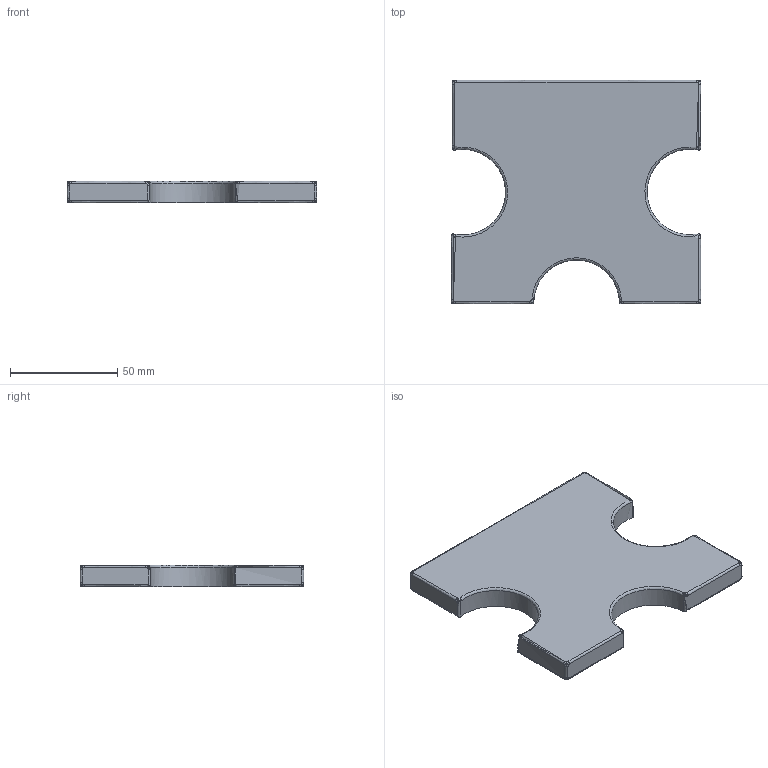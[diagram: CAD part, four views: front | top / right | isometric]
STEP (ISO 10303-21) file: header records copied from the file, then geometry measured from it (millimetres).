
FILE_DESCRIPTION(/* description */ (''),/* implementation_level */ '2;1');
FILE_NAME(/* name */ 'puzzle_test.step',/* time_stamp */ '2024-02-06T19:57:07-03:00',/* author */ (''),/* organization */ (''),/* preprocessor_version */ 'ST-DEVELOPER v20',/* originating_system */ 'Autodesk Translation Framework v12.20.1.177',/* authorisation */ '');
FILE_SCHEMA (('AUTOMOTIVE_DESIGN { 1 0 10303 214 3 1 1 }'));
Length unit declared in the file: millimetre
Products named in the file (1): testing
Bounding box: 116.56 x 104.55 x 10 mm (x, y, z)
Surface area: 24541.3 mm2 (no closed solid volume)
Topology: 0 solids, 1 shells, 117 faces, 288 edges, 156 vertices
Faces by surface type: bspline 105, plane 9, cylinder 3
Entity records: 10615 total; most frequent: CARTESIAN_POINT 8798, ORIENTED_EDGE 542, EDGE_CURVE 271, B_SPLINE_CURVE_WITH_KNOTS 260, VERTEX_POINT 156, FACE_OUTER_BOUND 117, EDGE_LOOP 117, ADVANCED_FACE 117
